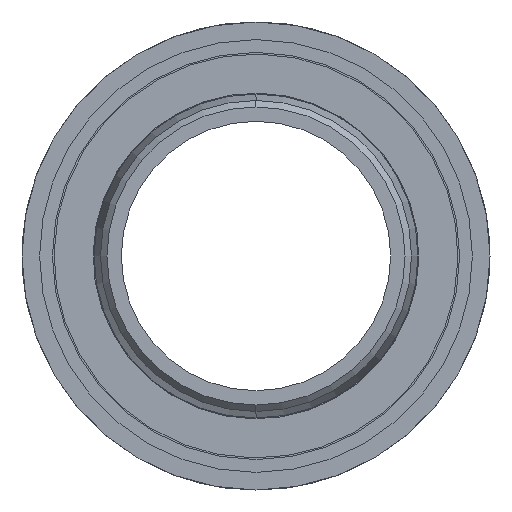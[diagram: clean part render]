
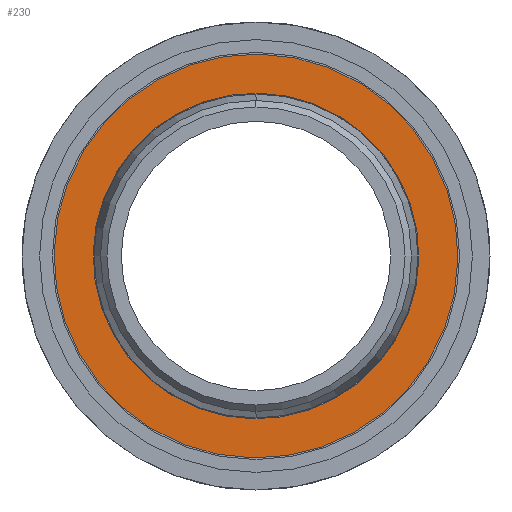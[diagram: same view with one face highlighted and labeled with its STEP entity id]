
A CAD part, left-side view. The second image highlights one B-rep face of the part: STEP entity #230.
In plain terms, the highlighted planar face has unit normal (-1, 0, 0).
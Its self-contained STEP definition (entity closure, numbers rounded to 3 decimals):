
#24 = ORIENTED_EDGE ( 'NONE', *, *, #143, .T. ) ;
#105 = AXIS2_PLACEMENT_3D ( 'NONE', #860, #1075, #978 ) ;
#121 = AXIS2_PLACEMENT_3D ( 'NONE', #1105, #773, #763 ) ;
#143 = EDGE_CURVE ( 'NONE', #1506, #1504, #1423, .T. ) ;
#167 = EDGE_CURVE ( 'NONE', #1504, #1506, #434, .T. ) ;
#230 = ADVANCED_FACE ( 'NONE', ( #573, #514 ), #1080, .F. ) ;
#288 = AXIS2_PLACEMENT_3D ( 'NONE', #1205, #1209, #704 ) ;
#292 = AXIS2_PLACEMENT_3D ( 'NONE', #786, #843, #1229 ) ;
#302 = AXIS2_PLACEMENT_3D ( 'NONE', #1175, #944, #1092 ) ;
#356 = EDGE_CURVE ( 'NONE', #1507, #1566, #589, .T. ) ;
#357 = EDGE_CURVE ( 'NONE', #1566, #1507, #461, .T. ) ;
#434 = CIRCLE ( 'NONE', #105, 25.4 ) ;
#461 = CIRCLE ( 'NONE', #288, 31.5 ) ;
#514 = FACE_BOUND ( 'NONE', #1383, .T. ) ;
#573 = FACE_OUTER_BOUND ( 'NONE', #1422, .T. ) ;
#589 = CIRCLE ( 'NONE', #292, 31.5 ) ;
#674 = CARTESIAN_POINT ( 'NONE',  ( -510., 8.241, 24.026 ) ) ;
#686 = CARTESIAN_POINT ( 'NONE',  ( -510., 10.22, 29.796 ) ) ;
#704 = DIRECTION ( 'NONE',  ( 0., -0.324, -0.946 ) ) ;
#763 = DIRECTION ( 'NONE',  ( 0., -0.324, -0.946 ) ) ;
#773 = DIRECTION ( 'NONE',  ( 1., 0., 0. ) ) ;
#786 = CARTESIAN_POINT ( 'NONE',  ( -510., 0., 0. ) ) ;
#843 = DIRECTION ( 'NONE',  ( 1., 0., 0. ) ) ;
#860 = CARTESIAN_POINT ( 'NONE',  ( -510., 0., 0. ) ) ;
#944 = DIRECTION ( 'NONE',  ( 1., 0., 0. ) ) ;
#978 = DIRECTION ( 'NONE',  ( 0., -0.324, -0.946 ) ) ;
#1055 = CARTESIAN_POINT ( 'NONE',  ( -510., -10.22, -29.796 ) ) ;
#1075 = DIRECTION ( 'NONE',  ( 1., 0., 0. ) ) ;
#1080 = PLANE ( 'NONE',  #302 ) ;
#1092 = DIRECTION ( 'NONE',  ( 0., -0.324, -0.946 ) ) ;
#1105 = CARTESIAN_POINT ( 'NONE',  ( -510., 0., 0. ) ) ;
#1175 = CARTESIAN_POINT ( 'NONE',  ( -510., 0., 0. ) ) ;
#1195 = CARTESIAN_POINT ( 'NONE',  ( -510., -8.241, -24.026 ) ) ;
#1205 = CARTESIAN_POINT ( 'NONE',  ( -510., 0., 0. ) ) ;
#1209 = DIRECTION ( 'NONE',  ( 1., 0., 0. ) ) ;
#1229 = DIRECTION ( 'NONE',  ( 0., -0.324, -0.946 ) ) ;
#1326 = ORIENTED_EDGE ( 'NONE', *, *, #356, .F. ) ;
#1355 = ORIENTED_EDGE ( 'NONE', *, *, #357, .F. ) ;
#1383 = EDGE_LOOP ( 'NONE', ( #1453, #24 ) ) ;
#1422 = EDGE_LOOP ( 'NONE', ( #1355, #1326 ) ) ;
#1423 = CIRCLE ( 'NONE', #121, 25.4 ) ;
#1453 = ORIENTED_EDGE ( 'NONE', *, *, #167, .T. ) ;
#1504 = VERTEX_POINT ( 'NONE', #674 ) ;
#1506 = VERTEX_POINT ( 'NONE', #1195 ) ;
#1507 = VERTEX_POINT ( 'NONE', #1055 ) ;
#1566 = VERTEX_POINT ( 'NONE', #686 ) ;
